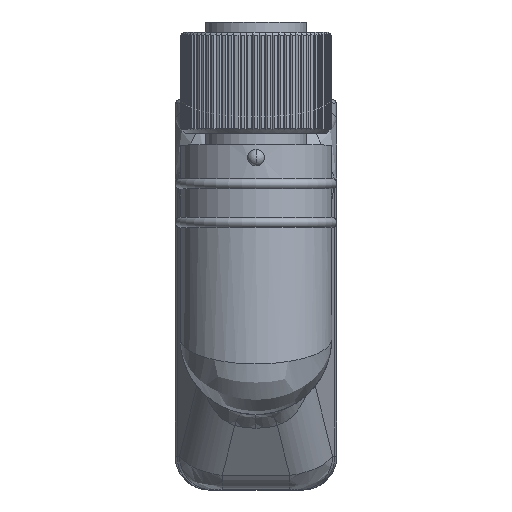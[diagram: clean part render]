
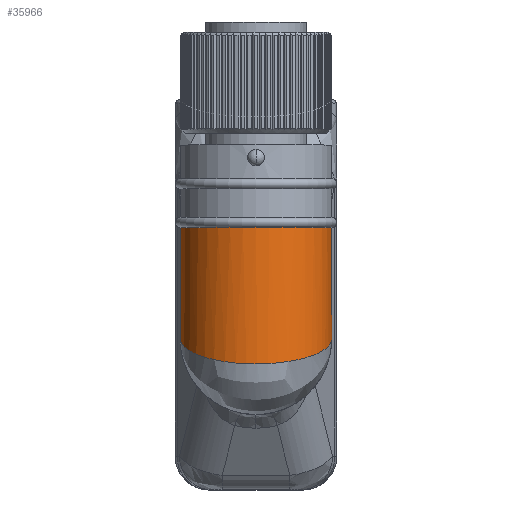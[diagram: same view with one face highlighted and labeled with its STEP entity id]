
A CAD part, top view. The second image highlights one B-rep face of the part: STEP entity #35966.
In plain terms, the highlighted cylindrical face has radius 4.5 mm (diameter 9 mm), a partial arc.
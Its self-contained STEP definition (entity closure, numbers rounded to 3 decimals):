
#1625 =( BOUNDED_CURVE ( )  B_SPLINE_CURVE ( 3, ( #9608, #32200, #15943, #38494 ),
 .UNSPECIFIED., .F., .T. ) 
 B_SPLINE_CURVE_WITH_KNOTS ( ( 4, 4 ),
 ( 4.712, 7.854 ),
 .UNSPECIFIED. ) 
 CURVE ( )  GEOMETRIC_REPRESENTATION_ITEM ( )  RATIONAL_B_SPLINE_CURVE ( ( 1., 0.333, 0.333, 1. ) ) 
 REPRESENTATION_ITEM ( '' )  );
#4327 = AXIS2_PLACEMENT_3D ( 'NONE', #40367, #12045, #37538 ) ;
#4829 = AXIS2_PLACEMENT_3D ( 'NONE', #25491, #15676, #15952 ) ;
#5282 = EDGE_CURVE ( 'NONE', #40702, #12472, #7885, .T. ) ;
#7885 = LINE ( 'NONE', #11004, #39982 ) ;
#8041 = CARTESIAN_POINT ( 'NONE',  ( 11.5, 0., 4.5 ) ) ;
#9608 = CARTESIAN_POINT ( 'NONE',  ( 11.5, 0., 4.5 ) ) ;
#10346 = ORIENTED_EDGE ( 'NONE', *, *, #19388, .F. ) ;
#11004 = CARTESIAN_POINT ( 'NONE',  ( 0., 0., 4.5 ) ) ;
#11143 = ORIENTED_EDGE ( 'NONE', *, *, #39496, .T. ) ;
#12045 = DIRECTION ( 'NONE',  ( 1., 0., 0. ) ) ;
#12352 = EDGE_LOOP ( 'NONE', ( #21074, #39690, #11143, #10346 ) ) ;
#12472 = VERTEX_POINT ( 'NONE', #8041 ) ;
#12929 = DIRECTION ( 'NONE',  ( 1., 0., 0. ) ) ;
#14370 = DIRECTION ( 'NONE',  ( 1., 0., 0. ) ) ;
#15676 = DIRECTION ( 'NONE',  ( -1., 0., 0. ) ) ;
#15943 = CARTESIAN_POINT ( 'NONE',  ( 14.5, 9., -4.5 ) ) ;
#15952 = DIRECTION ( 'NONE',  ( 0., 0., 1. ) ) ;
#16278 = CARTESIAN_POINT ( 'NONE',  ( 0., 0., -4.5 ) ) ;
#19388 = EDGE_CURVE ( 'NONE', #40254, #33900, #34535, .T. ) ;
#19481 = CARTESIAN_POINT ( 'NONE',  ( 11.5, 0., -4.5 ) ) ;
#20952 = VECTOR ( 'NONE', #12929, 1000. ) ;
#21074 = ORIENTED_EDGE ( 'NONE', *, *, #34597, .F. ) ;
#23035 = CARTESIAN_POINT ( 'NONE',  ( 4.9, 0., -4.5 ) ) ;
#23606 = CYLINDRICAL_SURFACE ( 'NONE', #4327, 4.5 ) ;
#25491 = CARTESIAN_POINT ( 'NONE',  ( 4.9, 0., 0. ) ) ;
#25591 = FACE_OUTER_BOUND ( 'NONE', #12352, .T. ) ;
#26674 = CIRCLE ( 'NONE', #4829, 4.5 ) ;
#32200 = CARTESIAN_POINT ( 'NONE',  ( 14.5, 9., 4.5 ) ) ;
#33900 = VERTEX_POINT ( 'NONE', #19481 ) ;
#34535 = LINE ( 'NONE', #16278, #20952 ) ;
#34597 = EDGE_CURVE ( 'NONE', #40702, #40254, #26674, .T. ) ;
#35966 = ADVANCED_FACE ( 'NONE', ( #25591 ), #23606, .T. ) ;
#36292 = CARTESIAN_POINT ( 'NONE',  ( 4.9, 0., 4.5 ) ) ;
#37538 = DIRECTION ( 'NONE',  ( 0., 0., -1. ) ) ;
#38494 = CARTESIAN_POINT ( 'NONE',  ( 11.5, 0., -4.5 ) ) ;
#39496 = EDGE_CURVE ( 'NONE', #12472, #33900, #1625, .T. ) ;
#39690 = ORIENTED_EDGE ( 'NONE', *, *, #5282, .T. ) ;
#39982 = VECTOR ( 'NONE', #14370, 1000. ) ;
#40254 = VERTEX_POINT ( 'NONE', #23035 ) ;
#40367 = CARTESIAN_POINT ( 'NONE',  ( 0., 0., 0. ) ) ;
#40702 = VERTEX_POINT ( 'NONE', #36292 ) ;
